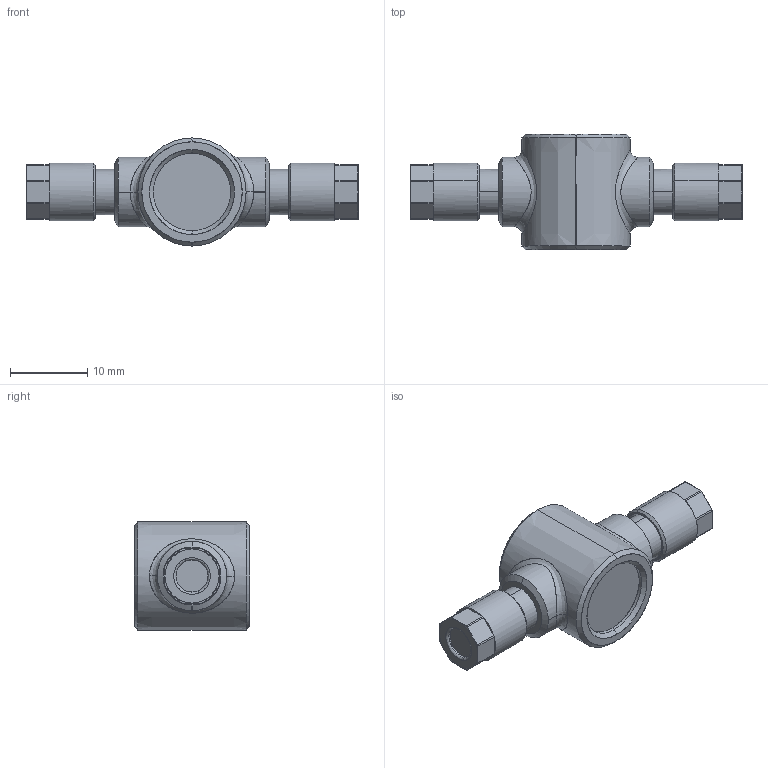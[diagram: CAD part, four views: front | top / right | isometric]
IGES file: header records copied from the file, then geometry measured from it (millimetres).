
Start section: SolidWorks IGES file using analytic representation for surfaces
Global section: file name: K:\Disegni Esecutivi\Serie 1000\Complessivi Serie 1000\1510\1510_iges\0151000002A.IGS; native system: SolidWorks 2008; preprocessor: SolidWorks 2008; author: cad05; date: 090216.084008; units: millimetre
Bounding box: 43 x 15 x 14 mm (x, y, z)
Surface area: 1763.3 mm2 (no closed solid volume)
Topology: 0 solids, 0 shells, 112 faces, 1358 edges, 1358 vertices
Faces by surface type: revolution 60, bspline 52
